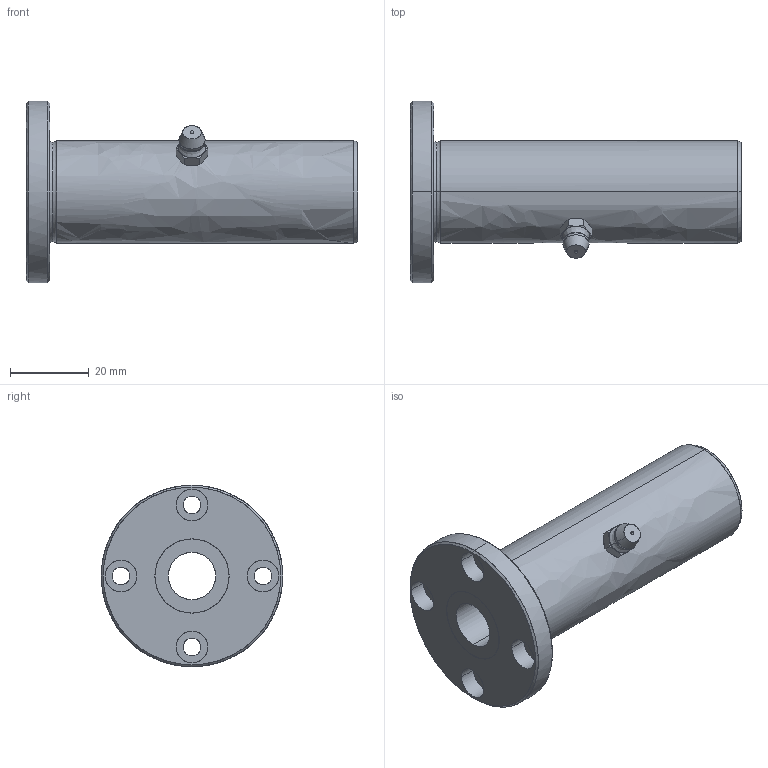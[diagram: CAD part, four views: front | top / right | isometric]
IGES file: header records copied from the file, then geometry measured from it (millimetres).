
Global section: file name: No Iges File Name specified; native system: AutoDesk Inventor R10; preprocessor: AutoDesk Inventor Iges Exporter R10; author: No Author specified; organization: No Organization specified; date: 20101211.161617; units: millimetre
Bounding box: 84 x 46 x 46 mm (x, y, z)
Surface area: 14006 mm2 (no closed solid volume)
Topology: 0 solids, 0 shells, 83 faces, 554 edges, 552 vertices
Faces by surface type: bspline 83
